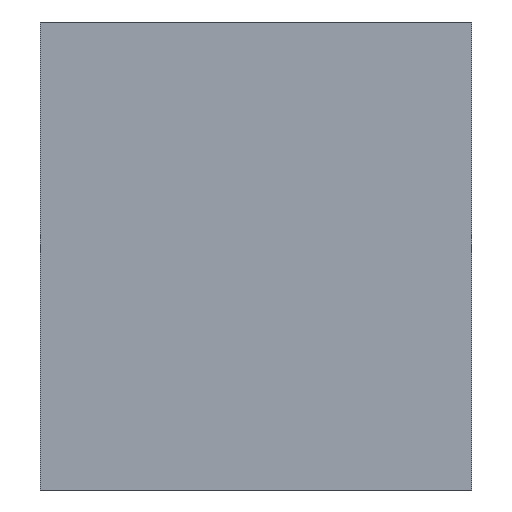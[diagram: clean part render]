
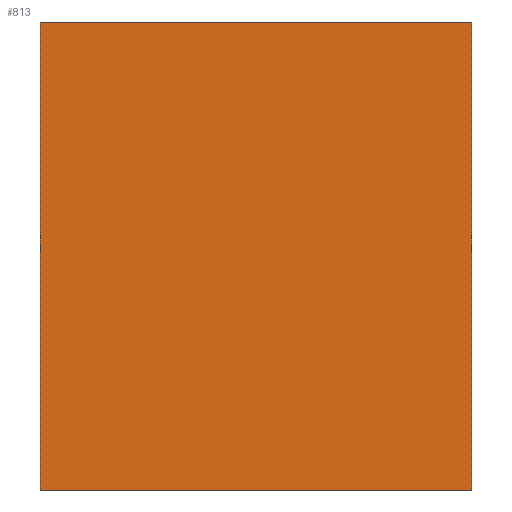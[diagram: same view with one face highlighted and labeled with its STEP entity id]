
A CAD part, left-side view. The second image highlights one B-rep face of the part: STEP entity #813.
In plain terms, the highlighted planar face has unit normal (-1, 0, 0).
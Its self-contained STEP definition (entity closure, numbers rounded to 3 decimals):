
#679=CARTESIAN_POINT('',(-0.318,-0.152,0.0));
#678=VERTEX_POINT('',#679);
#697=CARTESIAN_POINT('',(-0.318,-0.152,0.33));
#696=VERTEX_POINT('',#697);
#705=EDGE_CURVE('',#678,#696,#710,.T.);
#710=LINE('',#679,#712);
#712=VECTOR('',#713,0.33);
#713=DIRECTION('',(0.0,0.0,1.0));
#775=CARTESIAN_POINT('',(-0.318,0.152,0.0));
#774=VERTEX_POINT('',#775);
#785=CARTESIAN_POINT('',(-0.318,0.152,0.33));
#784=VERTEX_POINT('',#785);
#783=EDGE_CURVE('',#784,#774,#788,.T.);
#788=LINE('',#785,#790);
#790=VECTOR('',#791,0.33);
#791=DIRECTION('',(0.0,0.0,-1.0));
#813=ADVANCED_FACE('',(#819),#814,.T.);
#814=PLANE('',#815);
#815=AXIS2_PLACEMENT_3D('',#816,#817,#818);
#816=CARTESIAN_POINT('',(-0.318,0.152,0.0));
#817=DIRECTION('',(-1.0,0.0,0.0));
#818=DIRECTION('',(0.,0.,1.));
#819=FACE_OUTER_BOUND('',#820,.T.);
#820=EDGE_LOOP('',(#821,#831,#841,#851));
#822=EDGE_CURVE('',#678,#774,#827,.T.);
#827=LINE('',#679,#829);
#829=VECTOR('',#830,0.305);
#830=DIRECTION('',(0.0,1.0,0.0));
#821=ORIENTED_EDGE('',*,*,#822,.F.);
#831=ORIENTED_EDGE('',*,*,#705,.T.);
#842=EDGE_CURVE('',#784,#696,#847,.T.);
#847=LINE('',#785,#849);
#849=VECTOR('',#850,0.305);
#850=DIRECTION('',(0.0,-1.0,0.0));
#841=ORIENTED_EDGE('',*,*,#842,.F.);
#851=ORIENTED_EDGE('',*,*,#783,.T.);
